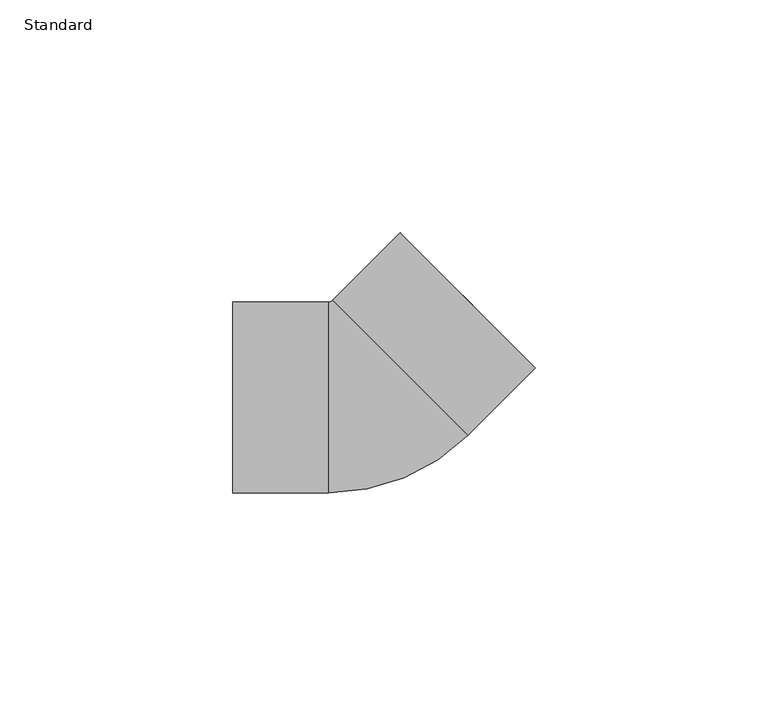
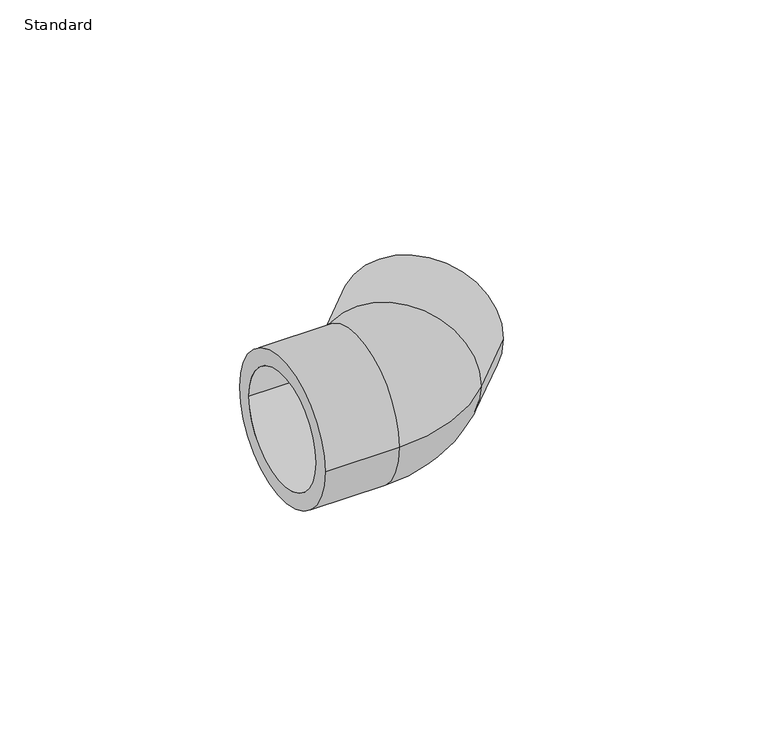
"""IFC4 building model written with IfcOpenShell, lengths in millimetres: pipe fitting geometry, Durapipe_PipeFitting_PVC_Elbow45deg : Standard."""

from ifc_helpers import new_model, si_unit, point, frame, origin, place, context, project, spatial, polyline, circle_curve, ellipse_curve, trimmed, source, transform, mapped, element, save
from ifc_brep_helpers import plane_surface, cylinder_surface, revolved_surface, advanced_brep


def standard_2860c506(model_context):
    return source(origin(), model_context, "Body", "AdvancedBrep", [
        advanced_brep(
        [(-29.5, -20.5, 0.0), (-29.5, 20.5, 0.0), (-29.5, -16.0, 0.0), (-29.5, 16.0, 0.0), (-8.991378, -20.5, 0.0), (-8.991378, 20.5, 0.0), (20.8535534, -8.1378246, 0.0), (-8.1378246, 20.8535534, 0.0), (35.3553391, 6.363961, 0.0), (6.363961, 35.3553391, 0.0), (9.5459415, 32.1733585, 0.0), (32.1733585, 9.5459415, 0.0), (-7.5, 16.0, 0.0), (-7.5, -16.0, 0.0), (-7.5, 0.0, 0.0), (-6.0104076, 16.6170094, 0.0), (5.3033009, 5.3033009, 0.0), (16.6170094, -6.0104076, 0.0)],
        [
            (0, 1, circle_curve(frame((-29.5, 0.0, 0.0), z_axis=(-1.0, 0.0, 0.0), x_axis=(0.0, 1.0, 0.0)), 20.5)),
            (1, 0, circle_curve(frame((-29.5, 0.0, 0.0), z_axis=(-1.0, 0.0, 0.0), x_axis=(0.0, 1.0, 0.0)), 20.5)),
            (2, 3, circle_curve(frame((-29.5, 0.0, 0.0), z_axis=(1.0, 0.0, 0.0), x_axis=(0.0, -1.0, 0.0)), 16.0)),
            (3, 2, circle_curve(frame((-29.5, 0.0, 0.0), z_axis=(1.0, 0.0, 0.0), x_axis=(0.0, -1.0, 0.0)), 16.0)),
            (0, 4),
            (4, 5, circle_curve(frame((-8.991378, 0.0, 0.0), z_axis=(-1.0, 0.0, 0.0), x_axis=(0.0, 1.0, 0.0)), 20.5)),
            (5, 1),
            (5, 4, circle_curve(frame((-8.991378, 0.0, 0.0), z_axis=(-1.0, 0.0, 0.0), x_axis=(0.0, 1.0, 0.0)), 20.5)),
            (4, 6, circle_curve(frame((-8.991378, 21.7071068, 0.0), z_axis=(0.0, 0.0, 1.0), x_axis=(0.0, -1.0, 0.0)), 42.2071068)),
            (6, 7, circle_curve(frame((6.3578644, 6.3578644, 0.0), z_axis=(-0.7071067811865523, -0.7071067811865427, 0.0), x_axis=(-0.7071067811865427, 0.7071067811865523, 0.0)), 20.5)),
            (7, 5, circle_curve(frame((-8.991378, 21.7071068, 0.0), z_axis=(0.0, 0.0, -1.0), x_axis=(0.0, -1.0, 0.0)), 1.2071068)),
            (7, 6, circle_curve(frame((6.3578644, 6.3578644, 0.0), z_axis=(-0.7071067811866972, -0.7071067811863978, 0.0), x_axis=(-0.7071067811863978, 0.7071067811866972, 0.0)), 20.5)),
            (8, 9, circle_curve(frame((20.85965, 20.85965, 0.0), z_axis=(0.7071067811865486, 0.7071067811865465, 0.0), x_axis=(-0.7071067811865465, 0.7071067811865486, 0.0)), 20.5)),
            (9, 8, circle_curve(frame((20.85965, 20.85965, 0.0), z_axis=(0.7071067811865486, 0.7071067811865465, 0.0), x_axis=(-0.7071067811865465, 0.7071067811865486, 0.0)), 20.5)),
            (10, 11, circle_curve(frame((20.85965, 20.85965, 0.0), z_axis=(-0.7071067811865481, -0.707106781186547, 0.0), x_axis=(0.7071067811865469, -0.707106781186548, 0.0)), 16.0)),
            (11, 10, circle_curve(frame((20.85965, 20.85965, 0.0), z_axis=(-0.7071067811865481, -0.707106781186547, 0.0), x_axis=(0.7071067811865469, -0.707106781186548, 0.0)), 16.0)),
            (6, 8),
            (9, 7),
            (12, 3),
            (2, 13),
            (13, 12, circle_curve(frame((-7.5, 0.0, 0.0), z_axis=(1.0, 0.0, 0.0), x_axis=(0.0, -1.0, 0.0)), 16.0)),
            (12, 13, circle_curve(frame((-7.5, 0.0, 0.0), z_axis=(1.0, 0.0, 0.0), x_axis=(0.0, -1.0, 0.0)), 16.0)),
            (13, 14),
            (14, 12),
            (15, 16),
            (16, 17),
            (17, 15, circle_curve(frame((5.3033009, 5.3033009, 0.0), z_axis=(0.7071067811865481, 0.707106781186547, 0.0), x_axis=(0.7071067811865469, -0.707106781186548, 0.0)), 16.0)),
            (15, 17, circle_curve(frame((5.3033009, 5.3033009, 0.0), z_axis=(0.7071067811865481, 0.707106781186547, 0.0), x_axis=(0.7071067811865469, -0.707106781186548, 0.0)), 16.0)),
            (17, 11),
            (10, 15),
        ],
        [
            plane_surface(frame((-29.5, 0.0, 0.0), z_axis=(-1.0, 0.0, 0.0), x_axis=(0.0, 0.0, 1.0))),
            cylinder_surface(frame((-29.5, 0.0, 0.0), z_axis=(-1.0, 0.0, 0.0), x_axis=(0.0, 1.0, 0.0)), 20.5),
            revolved_surface(trimmed(ellipse_curve(frame((-8.991378, 0.0, 0.0), z_axis=(-1.0, 0.0, 0.0), x_axis=(0.0, 1.0, 0.0)), 20.5, 20.5), [point((-8.991378, -20.5, 0.0))], [point((-8.991378, 20.5, 0.0))], True, "CARTESIAN"), (-8.991378, 21.7071068, 0.0), (0.0, 0.0, 1.0)),
            revolved_surface(trimmed(ellipse_curve(frame((-8.991378, 0.0, 0.0), z_axis=(-1.0, 0.0, 0.0), x_axis=(0.0, 1.0, 0.0)), 20.5, 20.5), [point((-8.991378, 20.5, 0.0))], [point((-8.991378, -20.5, 0.0))], True, "CARTESIAN"), (-8.991378, 21.7071068, 0.0), (0.0, 0.0, 1.0)),
            plane_surface(frame((20.85965, 20.85965, 0.0), z_axis=(0.7071067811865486, 0.7071067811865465, 0.0), x_axis=(0.0, 0.0, 1.0))),
            cylinder_surface(frame((6.3578644, 6.3578644, 0.0), z_axis=(-0.7071067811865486, -0.7071067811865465, 0.0), x_axis=(-0.7071067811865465, 0.7071067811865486, 0.0)), 20.5),
            revolved_surface(polyline([(-7.5, -16.0, 0.0), (-29.5, -16.0, 0.0)]), (2000.0, 0.0, 0.0), (1.0, 0.0, 0.0)),
            plane_surface(frame((-7.5, 0.0, 0.0), z_axis=(-1.0, 0.0, 0.0), x_axis=(0.0, -1.0, 0.0))),
            plane_surface(frame((5.3033009, 5.3033009, 0.0), z_axis=(0.7071067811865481, 0.707106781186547, 0.0), x_axis=(0.707106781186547, -0.7071067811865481, 0.0))),
            revolved_surface(polyline([(32.17335849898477, 9.54594150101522, 0.0), (16.617009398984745, -6.010407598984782, 0.0)]), (0.0, 0.0, 0.0), (0.707106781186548, 0.7071067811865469, 0.0)),
        ],
        [
            (0, [[1, 2], [3, 4]]),
            (1, [[-1, 5, 6, 7]]),
            (1, [[-2, -7, 8, -5]]),
            (2, [[-6, 9, 10, 11]]),
            (3, [[-8, -11, 12, -9]]),
            (4, [[13, 14], [15, 16]]),
            (5, [[-10, 17, -14, 18]]),
            (5, [[-12, -18, -13, -17]]),
            (6, [[19, -3, 20, 21]]),
            (6, [[-19, 22, -20, -4]]),
            (7, [[-21, 23, 24]]),
            (7, [[-22, -24, -23]]),
            (8, [[25, 26, 27]]),
            (8, [[-25, 28, -26]]),
            (9, [[-27, 29, -15, 30]]),
            (9, [[-28, -30, -16, -29]]),
        ],
    ),
    ])


if __name__ == "__main__":
    model = new_model("IFC4")
    model_context = context("Model", 3, world=origin())
    ifc_project = project(units=[si_unit("LENGTHUNIT", "METRE", prefix="MILLI")], contexts=[model_context])
    site = spatial("IfcSite", under=ifc_project)
    building = spatial("IfcBuilding", under=site)
    placement = place(None, origin())
    standard_shape = standard_2860c506(model_context)
    element("IfcPipeFitting", 1, ObjectType="Durapipe_PipeFitting_PVC_Elbow45deg : Standard", at=placement, inside=building, context=model_context, shape_type="MappedRepresentation", body=[
        mapped(standard_shape, transform((0.0, 0.0, 0.0), x_axis=(1.0, 0.0, 0.0), y_axis=(0.0, 1.0, 0.0), z_axis=(0.0, 0.0, 1.0))),
    ])
    save(model, "model.ifc")
